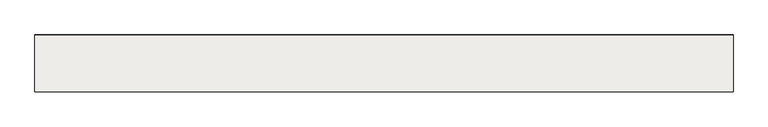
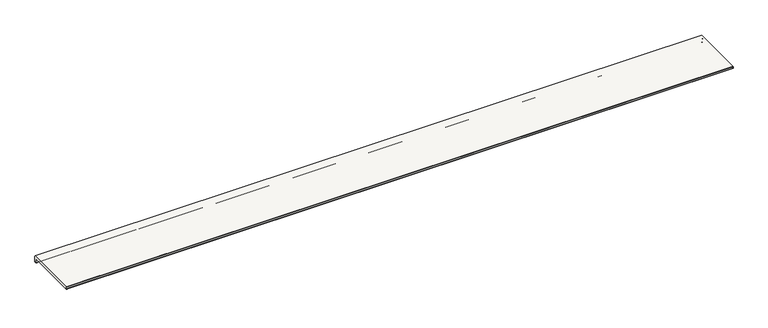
"""IFC4 building model written with IfcOpenShell, lengths in millimetres: slab geometry, ROSA GRES_L62 : Pieza L62_Tao_Beige_Anti-Slip."""

from ifc_helpers import new_model, si_unit, point, frame, frame_2d, origin, place, context, project, spatial, polyline, circle_curve, trimmed, segment, composite_curve, outline, extrude, source, transform, mapped, element, save


def slab_357b1d08(model_context):
    return source(origin(), model_context, "Body", "SweptSolid", [
        extrude(outline(composite_curve([segment(trimmed(circle_curve(frame_2d((-12.1001991, -35.1001991)), 1.8998009), [point((-12.1001991, -37.0))], [point((-14.0, -35.1001991))], False, "CARTESIAN"), True, "CONTINUOUS"), segment(polyline([(-14.0, -35.1001991), (-14.0, -16.5836242)]), True, "CONTINUOUS"), segment(trimmed(circle_curve(frame_2d((-16.6422322, -16.5836242)), 2.6422322), [point((-14.0, -16.5836242))], [point((-16.6422322, -13.9413919))], True, "CARTESIAN"), True, "CONTINUOUS"), segment(polyline([(-16.6422322, -13.9413919), (-315.5234432, -13.9413919)]), True, "CONTINUOUS"), segment(trimmed(circle_curve(frame_2d((-315.5234432, -12.4648352)), 1.4765568), [point((-315.5234432, -13.9413919))], [point((-317.0, -12.4648352))], False, "CARTESIAN"), True, "CONTINUOUS"), segment(polyline([(-317.0, -12.4648352), (-317.0, -2.5), (-315.5, 0.0), (-2.5, 0.0), (0.0, -2.5), (0.0, -34.5)]), True, "CONTINUOUS"), segment(trimmed(circle_curve(frame_2d((-2.5, -34.5)), 2.5), [point((0.0, -34.5))], [point((-2.5, -37.0))], False, "CARTESIAN"), True, "CONTINUOUS"), segment(polyline([(-2.5, -37.0), (-5.422949, -37.0)]), True, "CONTINUOUS"), segment(trimmed(circle_curve(frame_2d((-7.4142134, -37.0)), 1.9912643), [point((-5.422949, -37.0))], [point((-9.4054777, -37.0))], True, "CARTESIAN"), True, "CONTINUOUS"), segment(polyline([(-9.4054777, -37.0), (-12.1001991, -37.0)]), True, "CONTINUOUS")], self_intersect=False)), frame((0.0, 0.0, 0.0), z_axis=(1.0, 0.0, 0.0), x_axis=(0.0, 1.0, 0.0)), (0.0, 0.0, 1.0), 3880.0),
    ])


if __name__ == "__main__":
    model = new_model("IFC4")
    model_context = context("Model", 3, world=origin())
    ifc_project = project(units=[si_unit("LENGTHUNIT", "METRE", prefix="MILLI")], contexts=[model_context])
    site = spatial("IfcSite", under=ifc_project)
    building = spatial("IfcBuilding", under=site)
    placement = place(None, origin())
    slab_shape = slab_357b1d08(model_context)
    element("IfcSlab", 1, ObjectType="ROSA GRES_L62 : Pieza L62_Tao_Beige_Anti-Slip", at=placement, inside=building, context=model_context, shape_type="MappedRepresentation", body=[
        mapped(slab_shape, transform((0.0, 0.0, 0.0), x_axis=(1.0, 0.0, 0.0), y_axis=(0.0, 1.0, 0.0), z_axis=(0.0, 0.0, 1.0))),
    ])
    save(model, "model.ifc")
